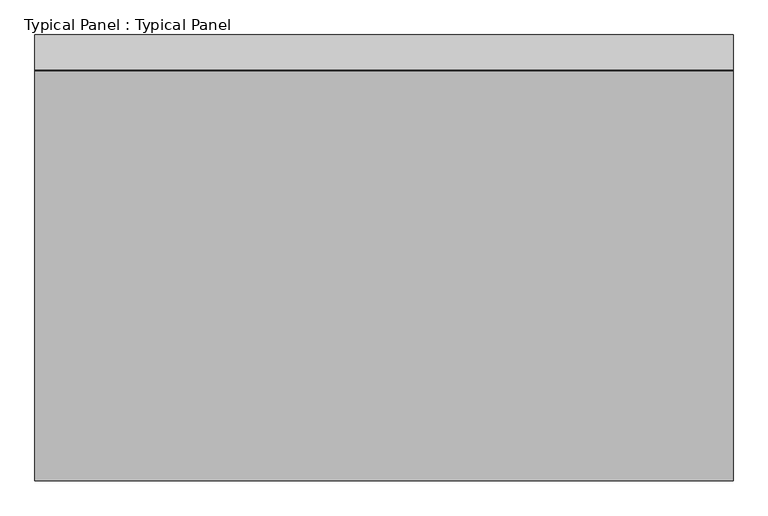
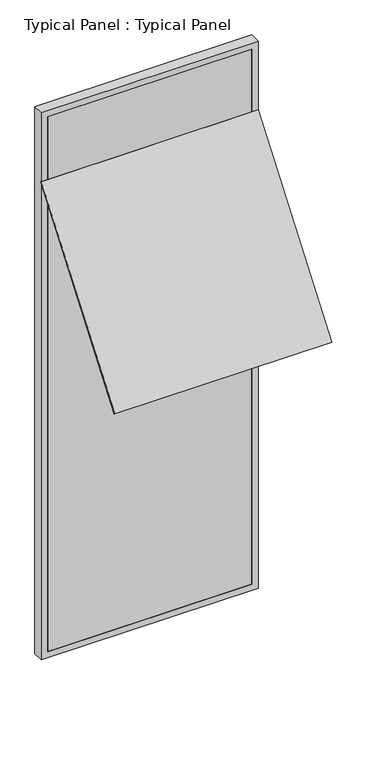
"""IFC4 building model written with IfcOpenShell, lengths in millimetres: plate geometry, Typical Panel : Typical Panel."""

from ifc_helpers import new_model, si_unit, frame, origin, place, context, project, spatial, polyline, outline, extrude, source, transform, mapped, element, save


def typical_panel_typical_panel_b37b2822(model_context):
    return source(origin(), model_context, "Body", "SweptSolid", [
        extrude(outline(polyline([(0.0, -10.0), (0.0, 0.0), (1500.0, 0.0), (1500.0, -10.0), (0.0, -10.0)])), frame((750.0, -883.6499338, 2333.9921553), z_axis=(0.0, 0.6018150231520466, 0.7986355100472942), x_axis=(-1.0, 0.0, 0.0)), (0.0, 0.0, 1.0), 1460.0),
        extrude(outline(polyline([(0.0, -750.0), (0.0, 750.0), (4000.0, 750.0), (4000.0, -750.0), (0.0, -750.0)]), holes=[polyline([(45.0, 705.0), (45.0, -705.0), (3955.0, -705.0), (3955.0, 705.0), (45.0, 705.0)])]), frame((0.0, -1.5797986, 0.0), z_axis=(0.0, 1.0, 0.0), x_axis=(0.0, 0.0, 1.0)), (0.0, 0.0, 1.0), 75.0),
        extrude(outline(polyline([(705.0, -1.5797986), (-705.0, -1.5797986), (-705.0, 13.4202014), (705.0, 13.4202014), (705.0, -1.5797986)])), frame((0.0, 0.0, 45.0), z_axis=(0.0, 0.0, 1.0), x_axis=(1.0, 0.0, 0.0)), (0.0, 0.0, 1.0), 3910.0),
    ])


if __name__ == "__main__":
    model = new_model("IFC4")
    model_context = context("Model", 3, world=origin())
    ifc_project = project(units=[si_unit("LENGTHUNIT", "METRE", prefix="MILLI")], contexts=[model_context])
    site = spatial("IfcSite", under=ifc_project)
    building = spatial("IfcBuilding", under=site)
    placement = place(None, origin())
    typical_panel_typical_panel_shape = typical_panel_typical_panel_b37b2822(model_context)
    element("IfcPlate", 1, ObjectType="Typical Panel : Typical Panel", at=placement, inside=building, context=model_context, shape_type="MappedRepresentation", body=[
        mapped(typical_panel_typical_panel_shape, transform((0.0, 0.0, 0.0), x_axis=(1.0, 0.0, 0.0), y_axis=(0.0, 1.0, 0.0), z_axis=(0.0, 0.0, 1.0))),
    ])
    save(model, "model.ifc")
